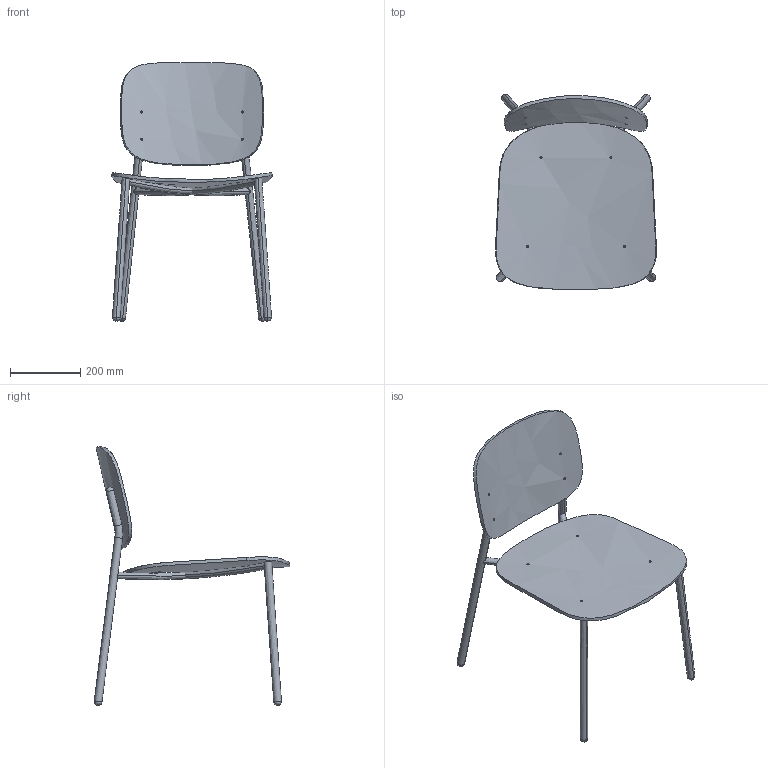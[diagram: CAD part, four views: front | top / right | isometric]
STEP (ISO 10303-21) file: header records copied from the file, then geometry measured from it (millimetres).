
FILE_DESCRIPTION(/* description */ (''),/* implementation_level */ '2;1');
FILE_NAME(/* name */ 'KINOSH~4',/* time_stamp */ '2019-07-19T17:16:47+09:00',/* author */ (''),/* organization */ (''),/* preprocessor_version */ 'ST-DEVELOPER v15',/* originating_system */ '',/* authorisation */ '');
FILE_SCHEMA (('AUTOMOTIVE_DESIGN'));
Length unit declared in the file: millimetre
Products named in the file (1): Document
Bounding box: 459.66 x 558.62 x 739.71 mm (x, y, z)
Volume: 3608392.7 mm3; surface area: 870241.9 mm2
Topology: 10 solids, 12 shells, 108 faces, 268 edges, 168 vertices
Faces by surface type: bspline 94, plane 14
Entity records: 7393 total; most frequent: CARTESIAN_POINT 5897, ORIENTED_EDGE 496, EDGE_CURVE 256, VERTEX_POINT 168, EDGE_LOOP 136, ADVANCED_FACE 108, FACE_OUTER_BOUND 108, B_SPLINE_CURVE_WITH_KNOTS 87
